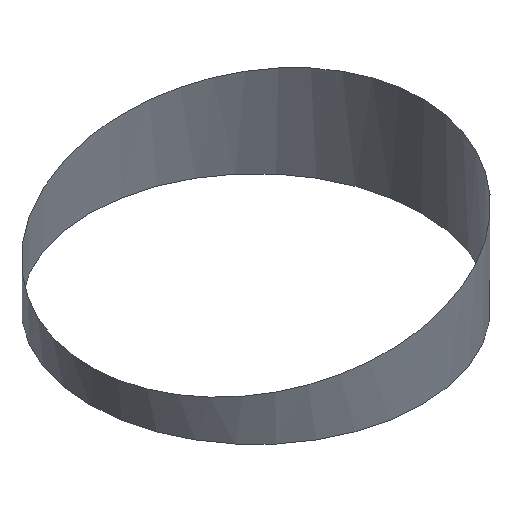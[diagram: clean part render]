
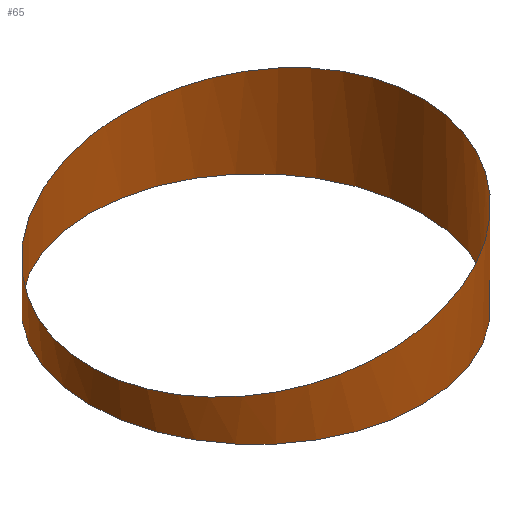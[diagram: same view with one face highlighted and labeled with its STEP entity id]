
A CAD part, isometric view. The second image highlights one B-rep face of the part: STEP entity #65.
In plain terms, the highlighted cylindrical face has radius 10 mm (diameter 20 mm), a full revolution.
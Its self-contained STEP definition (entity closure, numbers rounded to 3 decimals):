
#1=CARTESIAN_POINT('',(0.,0.,0.));
#2=CARTESIAN_POINT('',(0.,0.,-2.));
#3=CARTESIAN_POINT('',(0.,0.,2.));
#4=CARTESIAN_POINT('',(0.,10.,2.));
#5=CARTESIAN_POINT('',(10.,0.,-2.));
#6=CARTESIAN_POINT('',(0.,10.,-2.));
#7=CARTESIAN_POINT('',(-10.,0.,-2.));
#8=CARTESIAN_POINT('',(0.,-10.,-2.));
#10=DIRECTION('',(0.,0.,1.));
#11=DIRECTION('',(1.,0.,0.));
#12=DIRECTION('',(-0.196,0.,0.981));
#13=DIRECTION('',(0.,1.,0.));
#14=AXIS2_PLACEMENT_3D('',#1,#10,#11);
#15=AXIS2_PLACEMENT_3D('',#2,#10,#11);
#16=AXIS2_PLACEMENT_3D('',#3,#12,#13);
#20=VERTEX_POINT('',#4);
#21=VERTEX_POINT('',#5);
#22=VERTEX_POINT('',#6);
#23=VERTEX_POINT('',#7);
#24=VERTEX_POINT('',#8);
#30=ELLIPSE('',#16,10.,10.198);
#31=CIRCLE('',#15,10.);
#40=EDGE_CURVE('',#20,#20,#30,.T.);
#41=EDGE_CURVE('',#21,#22,#31,.T.);
#42=EDGE_CURVE('',#22,#23,#31,.T.);
#43=EDGE_CURVE('',#23,#24,#31,.T.);
#44=EDGE_CURVE('',#24,#21,#31,.T.);
#50=ORIENTED_EDGE('',*,*,#40,.F.);
#51=ORIENTED_EDGE('',*,*,#41,.T.);
#52=ORIENTED_EDGE('',*,*,#42,.T.);
#53=ORIENTED_EDGE('',*,*,#43,.T.);
#54=ORIENTED_EDGE('',*,*,#44,.T.);
#60=EDGE_LOOP('',(#50));
#61=FACE_OUTER_BOUND('',#60,.T.);
#62=EDGE_LOOP('',(#51,#52,#53,#54));
#63=FACE_BOUND('',#62,.T.);
#64=CYLINDRICAL_SURFACE('',#14,10.);
#65=ADVANCED_FACE('',(#61,#63),#64,.T.);
